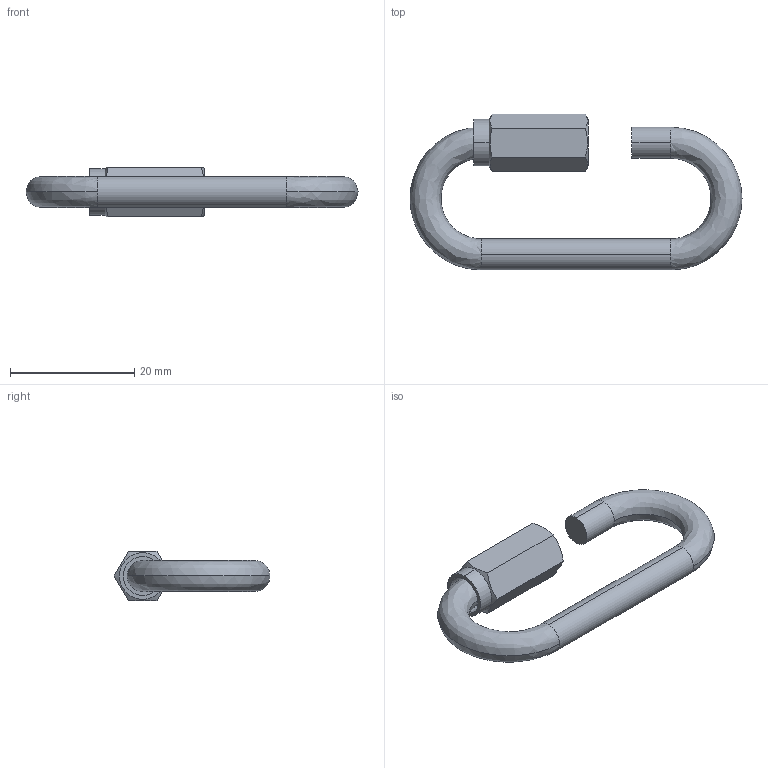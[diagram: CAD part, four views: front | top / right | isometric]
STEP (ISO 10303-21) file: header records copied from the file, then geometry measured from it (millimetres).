
FILE_DESCRIPTION (( 'STEP AP203' ), '1' );
FILE_NAME ('EB-923S-2.STEP', '2013-08-09T02:27:55', ( 'SDS' ), ( 'SDS' ), 'SwSTEP 2.0', 'SolidWorks 2002296', '' );
FILE_SCHEMA (( 'CONFIG_CONTROL_DESIGN' ));
Length unit declared in the file: millimetre
Products named in the file (3): EB-923S-2; EB-923S-21_蹬怮椔; EB-923S-22_蹬怮椔
Assembly tree (2 placements, depth 2):
  EB-923S-2
    EB-923S-22_蹬怮椔
    EB-923S-21_蹬怮椔
Bounding box: 53.5 x 25.12 x 8 mm (x, y, z)
Volume: 2752.6 mm3; surface area: 2624.2 mm2
Topology: 2 solids, 2 shells, 31 faces, 76 edges, 50 vertices
Faces by surface type: cylinder 12, plane 11, bspline 4, cone 4
Entity records: 1389 total; most frequent: CARTESIAN_POINT 358, DIRECTION 162, ORIENTED_EDGE 152, EDGE_CURVE 76, AXIS2_PLACEMENT_3D 70, VERTEX_POINT 50, CIRCLE 38, EDGE_LOOP 34
